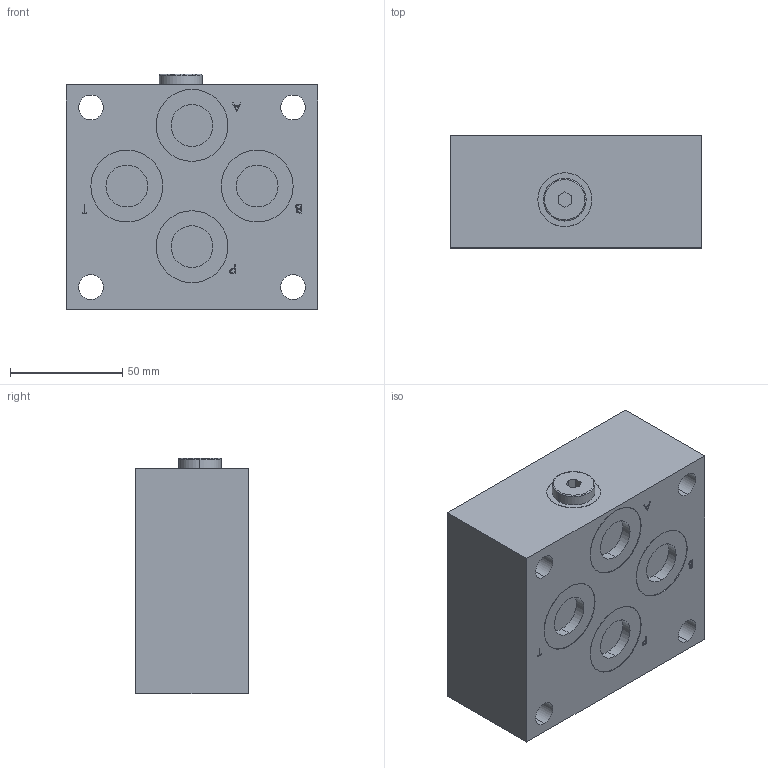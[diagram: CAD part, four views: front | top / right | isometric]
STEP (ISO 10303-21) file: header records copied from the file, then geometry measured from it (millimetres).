
FILE_DESCRIPTION (( 'STEP AP214' ), '1' );
FILE_NAME ('AG10U.STEP', '2017-03-16T13:40:34', ( '' ), ( '' ), 'SwSTEP 2.0', 'SolidWorks 2016', '' );
FILE_SCHEMA (( 'AUTOMOTIVE_DESIGN' ));
Length unit declared in the file: millimetre
Products named in the file (1): AG10U
Bounding box: 112 x 50 x 104.7 mm (x, y, z)
Volume: 522486.5 mm3; surface area: 55703.1 mm2
Topology: 2 solids, 3 shells, 223 faces, 539 edges, 352 vertices
Faces by surface type: plane 113, cylinder 60, bspline 40, cone 8, torus 2
Entity records: 11380 total; most frequent: CARTESIAN_POINT 3943, ORIENTED_EDGE 1062, DIRECTION 935, EDGE_CURVE 531, VERTEX_POINT 352, VECTOR 327, LINE 327, AXIS2_PLACEMENT_3D 304
